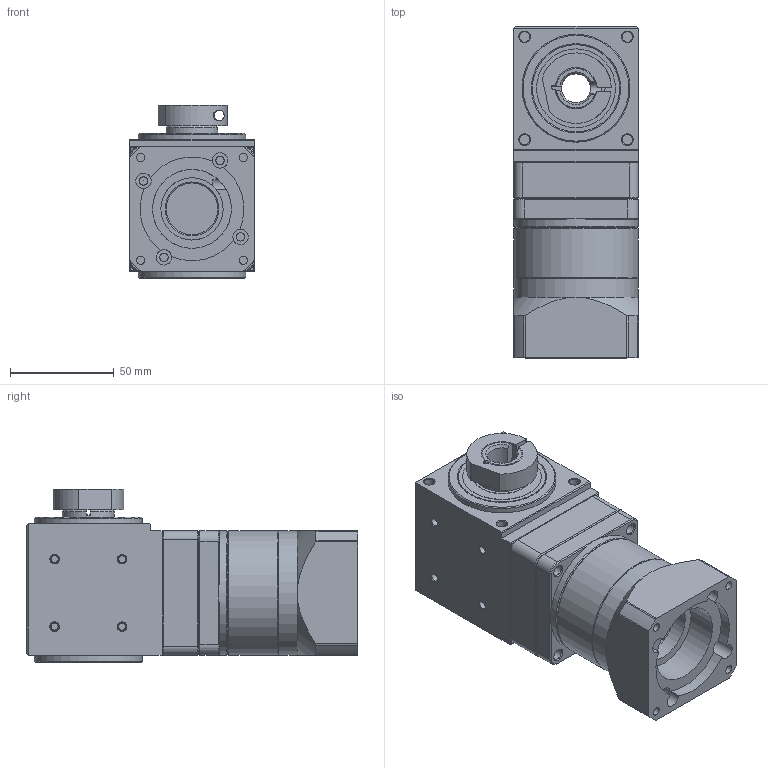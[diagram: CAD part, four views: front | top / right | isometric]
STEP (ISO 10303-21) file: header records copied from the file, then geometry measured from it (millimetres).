
FILE_DESCRIPTION (( 'STEP AP203' ), '1' );
FILE_NAME ('RAH60-R2-60.STEP', '2015-03-13T03:03:28', ( 'wang' ), ( '' ), 'SwSTEP 2.0', 'SolidWorks 2013', '' );
FILE_SCHEMA (( 'CONFIG_CONTROL_DESIGN' ));
Length unit declared in the file: millimetre
Products named in the file (1): RAH60-R2-60
Bounding box: 60 x 159.9 x 83.7 mm (x, y, z)
Volume: 377983.1 mm3; surface area: 132690.3 mm2
Topology: 13 solids, 13 shells, 1040 faces, 2707 edges, 1762 vertices
Faces by surface type: cylinder 425, plane 265, bspline 216, cone 129, torus 5
Full cylindrical faces by diameter (mm): 0.051 x1, 3.3 x4, 4 x28, 4.2 x1, 4.3 x4, 4.4 x4, 5 x10, 5.2 x6, 7.4 x4, 8 x5, 8.5 x1, 10 x1, 14 x4, 14.4 x1, 15 x1, 17 x1, 20 x2, 22 x1, 24.6 x1, 24.8 x1, 25 x6, 26 x1, 26.982 x1, 28 x3, 29.923 x1, 30 x1, 31.304 x1, 32 x2, 34.7 x1, 35 x2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
Entity records: 44808 total; most frequent: CARTESIAN_POINT 21127, ORIENTED_EDGE 4910, DIRECTION 4555, EDGE_CURVE 2455, AXIS2_PLACEMENT_3D 1851, VERTEX_POINT 1703, EDGE_LOOP 1364, FACE_OUTER_BOUND 1168
